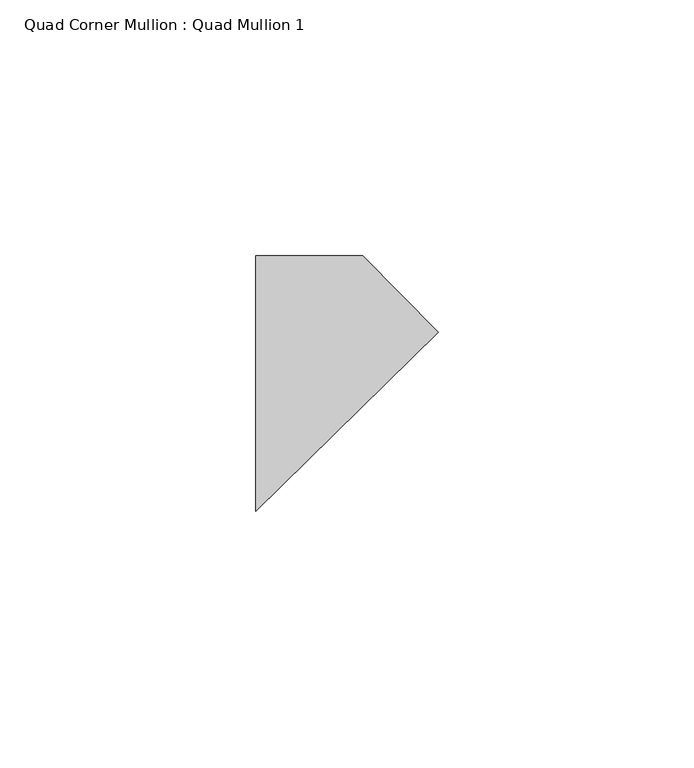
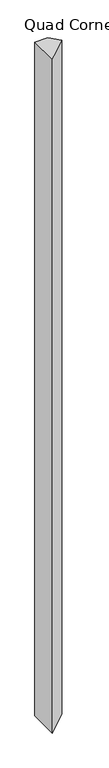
"""IFC4 building model written with IfcOpenShell, lengths in millimetres: member geometry, Quad Corner Mullion : Quad Mullion 1."""

from ifc_helpers import new_model, si_unit, frame, origin, place, context, project, spatial, polyline, outline, extrude, source, transform, mapped, element, save


def quad_corner_mullion_quad_mullion_1_5f92ab73(model_context):
    return source(origin(), model_context, "Body", "SweptSolid", [
        extrude(outline(polyline([(25.1823208, 10.0399087), (-10.4856592, -25.0), (-10.4856592, 25.0), (10.4856592, 25.0), (25.1823208, 10.0399087)])), frame((0.0, 0.0, -1180.0), z_axis=(0.0, 0.0, 1.0), x_axis=(1.0, 0.0, 0.0)), (0.0, 0.0, 1.0), 1180.0),
    ])


if __name__ == "__main__":
    model = new_model("IFC4")
    model_context = context("Model", 3, world=origin())
    ifc_project = project(units=[si_unit("LENGTHUNIT", "METRE", prefix="MILLI")], contexts=[model_context])
    site = spatial("IfcSite", under=ifc_project)
    building = spatial("IfcBuilding", under=site)
    placement = place(None, origin())
    quad_corner_mullion_quad_mullion_1_shape = quad_corner_mullion_quad_mullion_1_5f92ab73(model_context)
    element("IfcMember", 1, ObjectType="Quad Corner Mullion : Quad Mullion 1", at=placement, inside=building, context=model_context, shape_type="MappedRepresentation", body=[
        mapped(quad_corner_mullion_quad_mullion_1_shape, transform((0.0, 0.0, 0.0), x_axis=(1.0, 0.0, 0.0), y_axis=(0.0, 1.0, 0.0), z_axis=(0.0, 0.0, 1.0))),
    ])
    save(model, "model.ifc")
